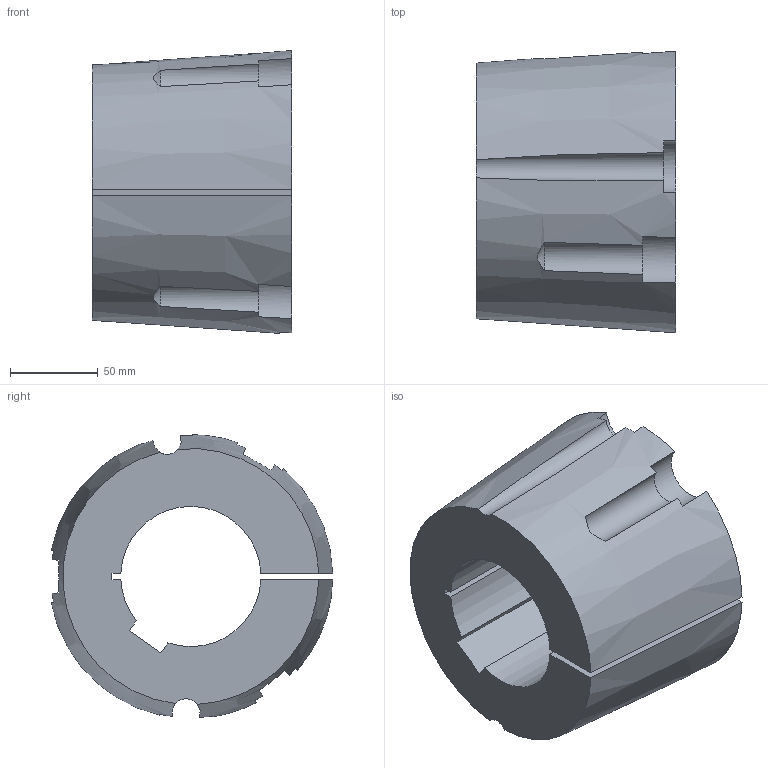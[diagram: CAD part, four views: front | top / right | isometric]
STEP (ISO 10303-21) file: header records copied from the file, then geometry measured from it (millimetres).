
FILE_DESCRIPTION( ( 'STEP AP203' ), '1' );
FILE_NAME( 'D:/export/antriebselemente/spannbuchsen_und_spannsaetze/taper-spannbuchsen_1008_bis_5050/taper-spannbuchsen_62251580Isometric_254.stp', '2018-12-11T11:11:35', ( '' ), ( '' ), ' ', 'PARTsolutions', ' ' );
FILE_SCHEMA( ( 'CONFIG_CONTROL_DESIGN' ) );
Length unit declared in the file: millimetre
Products named in the file (1): _taper-spannbuchsen_62251580
Bounding box: 114 x 160.6 x 161.35 mm (x, y, z)
Volume: 1451756.8 mm3; surface area: 124545.3 mm2
Topology: 1 solids, 1 shells, 34 faces, 96 edges, 64 vertices
Faces by surface type: plane 15, cylinder 13, cone 6
Entity records: 1314 total; most frequent: CARTESIAN_POINT 390, ORIENTED_EDGE 192, DIRECTION 186, EDGE_CURVE 96, AXIS2_PLACEMENT_3D 80, VERTEX_POINT 64, CIRCLE 45, ADVANCED_FACE 34
